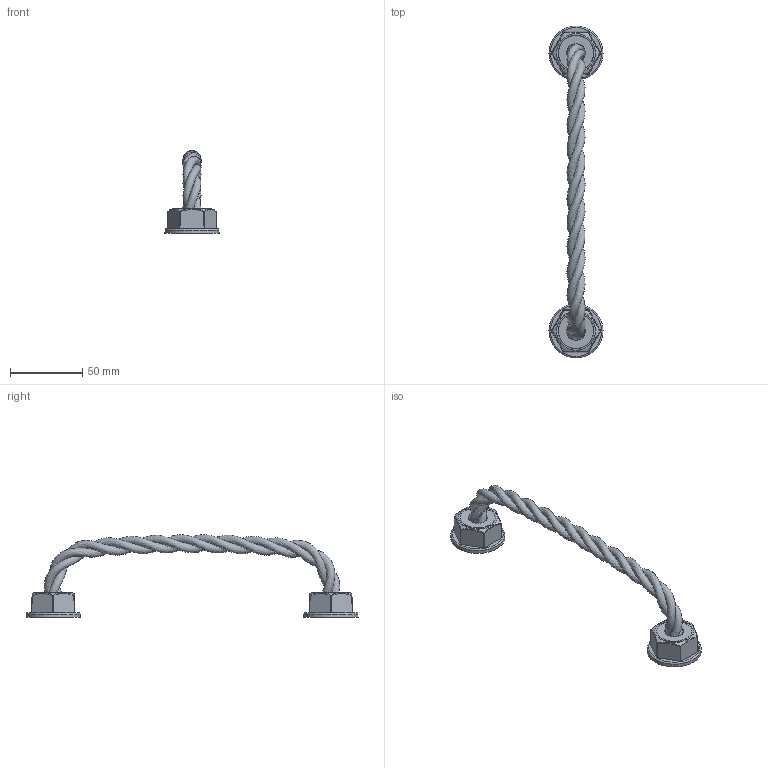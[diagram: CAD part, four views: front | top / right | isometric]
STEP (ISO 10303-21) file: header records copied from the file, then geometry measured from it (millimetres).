
FILE_DESCRIPTION( ( 'Unknown' ), '1' );
FILE_NAME( 'C:/Users/Georges/Desktop/SMD_3D_Data/8279-229.stp', 'Unknown', ( 'Unknown' ), ( 'Unknown' ), 'PSStep 16.0.42', 'Unknown', ' ' );
FILE_SCHEMA( ( 'AUTOMOTIVE_DESIGN { 1 0 10303 214 1 1 1 1 }' ) );
Length unit declared in the file: millimetre
Products named in the file (6): Assem1; 8279-229; 8279-229 Lower Part; 8279-229 Upper Part
Assembly tree (5 placements, depth 2):
  Assem1
    8279-229
    8279-229 Lower Part
    8279-229 Lower Part
    8279-229 Upper Part
    8279-229 Upper Part
Bounding box: 37.4 x 229.4 x 57.11 mm (x, y, z)
Volume: 35547.1 mm3; surface area: 24747.6 mm2
Topology: 5 solids, 5 shells, 197 faces, 493 edges, 312 vertices
Faces by surface type: plane 96, cone 30, cylinder 28, torus 16, bspline 15, sphere 12
Full cylindrical faces by diameter (mm): 4.4 x2, 32.398 x2
Entity records: 15135 total; most frequent: CARTESIAN_POINT 8956, DIRECTION 940, ORIENTED_EDGE 898, EDGE_CURVE 449, AXIS2_PLACEMENT_3D 362, VERTEX_POINT 302, EDGE_LOOP 253, FACE_OUTER_BOUND 217
